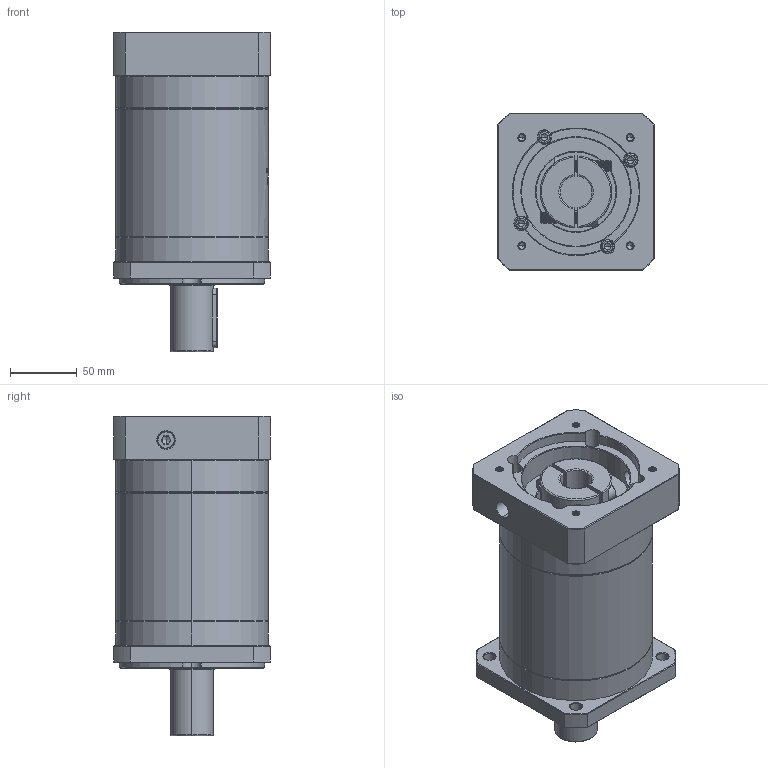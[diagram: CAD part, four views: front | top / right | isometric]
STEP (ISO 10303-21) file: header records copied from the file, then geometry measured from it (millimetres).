
FILE_DESCRIPTION (( 'STEP AP214' ), '1' );
FILE_NAME ('ZF120A-D32-L3-24-95-115-M6.step', '2023-03-07T09:35:48', ( '' ), ( '' ), 'SwSTEP 2.0', 'SolidWorks 2016', '' );
FILE_SCHEMA (( 'AUTOMOTIVE_DESIGN' ));
Length unit declared in the file: millimetre
Products named in the file (1): ZF120A-D32-L3-24-95-115-M6
Bounding box: 118 x 118 x 240.5 mm (x, y, z)
Volume: 1969585.9 mm3; surface area: 179037.8 mm2
Topology: 6 solids, 6 shells, 1962 faces, 5159 edges, 3291 vertices
Faces by surface type: plane 857, cylinder 421, cone 343, bspline 341
Entity records: 107273 total; most frequent: CARTESIAN_POINT 41067, ORIENTED_EDGE 10258, DIRECTION 7975, EDGE_CURVE 5129, VERTEX_POINT 3291, VECTOR 2753, LINE 2753, AXIS2_PLACEMENT_3D 2611
